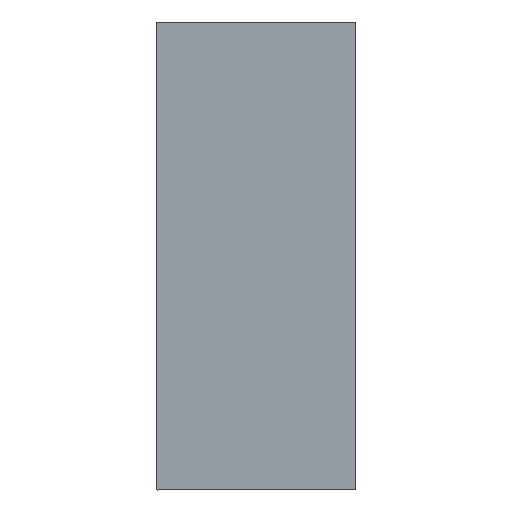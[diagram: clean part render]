
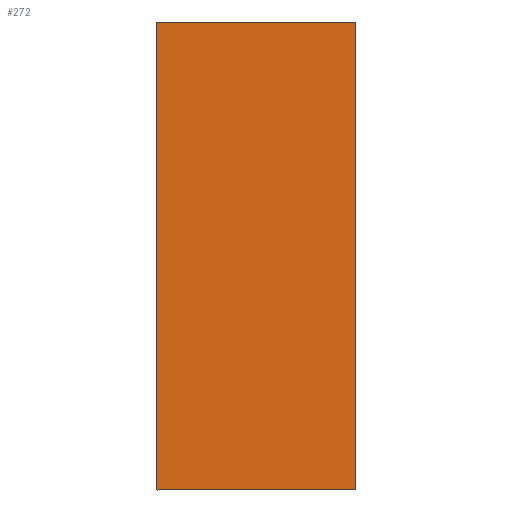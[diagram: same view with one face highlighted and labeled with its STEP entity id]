
A CAD part, front view. The second image highlights one B-rep face of the part: STEP entity #272.
In plain terms, the highlighted free-form (B-spline) face has degree [1, 1] with [2, 2] control points.
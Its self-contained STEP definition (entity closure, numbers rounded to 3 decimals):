
#272=ADVANCED_FACE('',(#550),#4732,.T.);
#550=FACE_OUTER_BOUND('',#828,.T.);
#828=EDGE_LOOP('',(#1389,#1390,#1391,#1392,#1393,#1394,#1395,#1396));
#1389=ORIENTED_EDGE('',*,*,#2767,.F.);
#1390=ORIENTED_EDGE('',*,*,#2771,.F.);
#1391=ORIENTED_EDGE('',*,*,#2774,.F.);
#1392=ORIENTED_EDGE('',*,*,#2777,.F.);
#1393=ORIENTED_EDGE('',*,*,#2780,.F.);
#1394=ORIENTED_EDGE('',*,*,#2783,.F.);
#1395=ORIENTED_EDGE('',*,*,#2786,.F.);
#1396=ORIENTED_EDGE('',*,*,#2788,.F.);
#2767=EDGE_CURVE('',#4273,#4274,#3469,.T.);
#2771=EDGE_CURVE('',#4276,#4273,#3906,.T.);
#2774=EDGE_CURVE('',#4278,#4276,#3474,.T.);
#2777=EDGE_CURVE('',#4280,#4278,#3908,.T.);
#2780=EDGE_CURVE('',#4282,#4280,#3478,.T.);
#2783=EDGE_CURVE('',#4284,#4282,#3910,.T.);
#2786=EDGE_CURVE('',#4286,#4284,#3482,.T.);
#2788=EDGE_CURVE('',#4274,#4286,#3912,.T.);
#3469=B_SPLINE_CURVE_WITH_KNOTS('',1,(#7511,#7512),.UNSPECIFIED.,.F.,.F.,
(2,2),(0.,846.),.UNSPECIFIED.);
#3474=B_SPLINE_CURVE_WITH_KNOTS('',1,(#7527,#7528),.UNSPECIFIED.,.F.,.F.,
(2,2),(0.,1996.),.UNSPECIFIED.);
#3478=B_SPLINE_CURVE_WITH_KNOTS('',1,(#7541,#7542),.UNSPECIFIED.,.F.,.F.,
(2,2),(0.,846.),.UNSPECIFIED.);
#3482=B_SPLINE_CURVE_WITH_KNOTS('',1,(#7555,#7556),.UNSPECIFIED.,.F.,.F.,
(2,2),(0.,1996.),.UNSPECIFIED.);
#3906=(
BOUNDED_CURVE()
B_SPLINE_CURVE(2,(#7520,#7521,#7522),.UNSPECIFIED.,.F.,.F.)
B_SPLINE_CURVE_WITH_KNOTS((3,3),(0.,3.142),.UNSPECIFIED.)
CURVE()
GEOMETRIC_REPRESENTATION_ITEM()
RATIONAL_B_SPLINE_CURVE((1.,0.707,1.))
REPRESENTATION_ITEM('')
);
#3908=(
BOUNDED_CURVE()
B_SPLINE_CURVE(2,(#7534,#7535,#7536),.UNSPECIFIED.,.F.,.F.)
B_SPLINE_CURVE_WITH_KNOTS((3,3),(0.,3.142),.UNSPECIFIED.)
CURVE()
GEOMETRIC_REPRESENTATION_ITEM()
RATIONAL_B_SPLINE_CURVE((1.,0.707,1.))
REPRESENTATION_ITEM('')
);
#3910=(
BOUNDED_CURVE()
B_SPLINE_CURVE(2,(#7548,#7549,#7550),.UNSPECIFIED.,.F.,.F.)
B_SPLINE_CURVE_WITH_KNOTS((3,3),(0.,3.142),.UNSPECIFIED.)
CURVE()
GEOMETRIC_REPRESENTATION_ITEM()
RATIONAL_B_SPLINE_CURVE((1.,0.707,1.))
REPRESENTATION_ITEM('')
);
#3912=(
BOUNDED_CURVE()
B_SPLINE_CURVE(2,(#7560,#7561,#7562),.UNSPECIFIED.,.F.,.F.)
B_SPLINE_CURVE_WITH_KNOTS((3,3),(0.,3.142),.UNSPECIFIED.)
CURVE()
GEOMETRIC_REPRESENTATION_ITEM()
RATIONAL_B_SPLINE_CURVE((1.,0.707,1.))
REPRESENTATION_ITEM('')
);
#4273=VERTEX_POINT('',#7493);
#4274=VERTEX_POINT('',#7494);
#4276=VERTEX_POINT('',#7496);
#4278=VERTEX_POINT('',#7498);
#4280=VERTEX_POINT('',#7500);
#4282=VERTEX_POINT('',#7502);
#4284=VERTEX_POINT('',#7504);
#4286=VERTEX_POINT('',#7506);
#4732=B_SPLINE_SURFACE_WITH_KNOTS('',1,1,((#7487,#7488),(#7489,#7490)),
 .UNSPECIFIED.,.F.,.F.,.F.,(2,2),(2,2),(0.012,1020.036),
(0.012,2400.036),.UNSPECIFIED.);
#7487=CARTESIAN_POINT('',(-2040.848,-114.712,-1689.184));
#7488=CARTESIAN_POINT('',(-2040.848,-114.712,710.84));
#7489=CARTESIAN_POINT('',(-1020.824,-114.712,-1689.184));
#7490=CARTESIAN_POINT('',(-1020.824,-114.712,710.84));
#7493=CARTESIAN_POINT('',(-1953.836,-114.712,510.828));
#7494=CARTESIAN_POINT('',(-1107.836,-114.712,510.828));
#7496=CARTESIAN_POINT('',(-1955.836,-114.712,508.828));
#7498=CARTESIAN_POINT('',(-1955.836,-114.712,-1487.172));
#7500=CARTESIAN_POINT('',(-1953.836,-114.712,-1489.172));
#7502=CARTESIAN_POINT('',(-1107.836,-114.712,-1489.172));
#7504=CARTESIAN_POINT('',(-1105.836,-114.712,-1487.172));
#7506=CARTESIAN_POINT('',(-1105.836,-114.712,508.828));
#7511=CARTESIAN_POINT('',(-1953.836,-114.712,510.828));
#7512=CARTESIAN_POINT('',(-1107.836,-114.712,510.828));
#7520=CARTESIAN_POINT('',(-1955.836,-114.712,508.828));
#7521=CARTESIAN_POINT('',(-1955.836,-114.712,510.828));
#7522=CARTESIAN_POINT('',(-1953.836,-114.712,510.828));
#7527=CARTESIAN_POINT('',(-1955.836,-114.712,-1487.172));
#7528=CARTESIAN_POINT('',(-1955.836,-114.712,508.828));
#7534=CARTESIAN_POINT('',(-1953.836,-114.712,-1489.172));
#7535=CARTESIAN_POINT('',(-1955.836,-114.712,-1489.172));
#7536=CARTESIAN_POINT('',(-1955.836,-114.712,-1487.172));
#7541=CARTESIAN_POINT('',(-1107.836,-114.712,-1489.172));
#7542=CARTESIAN_POINT('',(-1953.836,-114.712,-1489.172));
#7548=CARTESIAN_POINT('',(-1105.836,-114.712,-1487.172));
#7549=CARTESIAN_POINT('',(-1105.836,-114.712,-1489.172));
#7550=CARTESIAN_POINT('',(-1107.836,-114.712,-1489.172));
#7555=CARTESIAN_POINT('',(-1105.836,-114.712,508.828));
#7556=CARTESIAN_POINT('',(-1105.836,-114.712,-1487.172));
#7560=CARTESIAN_POINT('',(-1107.836,-114.712,510.828));
#7561=CARTESIAN_POINT('',(-1105.836,-114.712,510.828));
#7562=CARTESIAN_POINT('',(-1105.836,-114.712,508.828));
